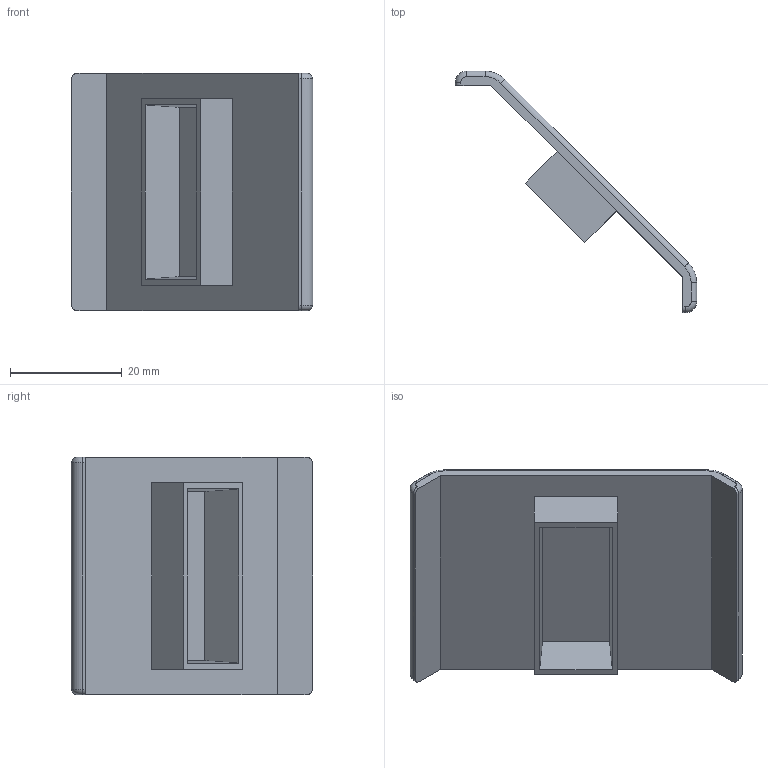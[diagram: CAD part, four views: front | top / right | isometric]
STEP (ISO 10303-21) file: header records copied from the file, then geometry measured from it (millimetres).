
FILE_DESCRIPTION (( 'STEP AP214' ), '1' );
FILE_NAME ('084.206.003.STEP', '2021-02-05T09:07:20', ( '' ), ( '' ), 'SwSTEP 2.0', 'SolidWorks 2018', '' );
FILE_SCHEMA (( 'AUTOMOTIVE_DESIGN' ));
Length unit declared in the file: millimetre
Products named in the file (1): 084.206.003
Bounding box: 43.14 x 43.14 x 42.4 mm (x, y, z)
Volume: 7483 mm3; surface area: 7161.4 mm2
Topology: 1 solids, 1 shells, 42 faces, 98 edges, 60 vertices
Faces by surface type: plane 20, cylinder 14, torus 8
Entity records: 1224 total; most frequent: DIRECTION 220, CARTESIAN_POINT 201, ORIENTED_EDGE 196, EDGE_CURVE 98, AXIS2_PLACEMENT_3D 79, VECTOR 62, LINE 62, VERTEX_POINT 60
